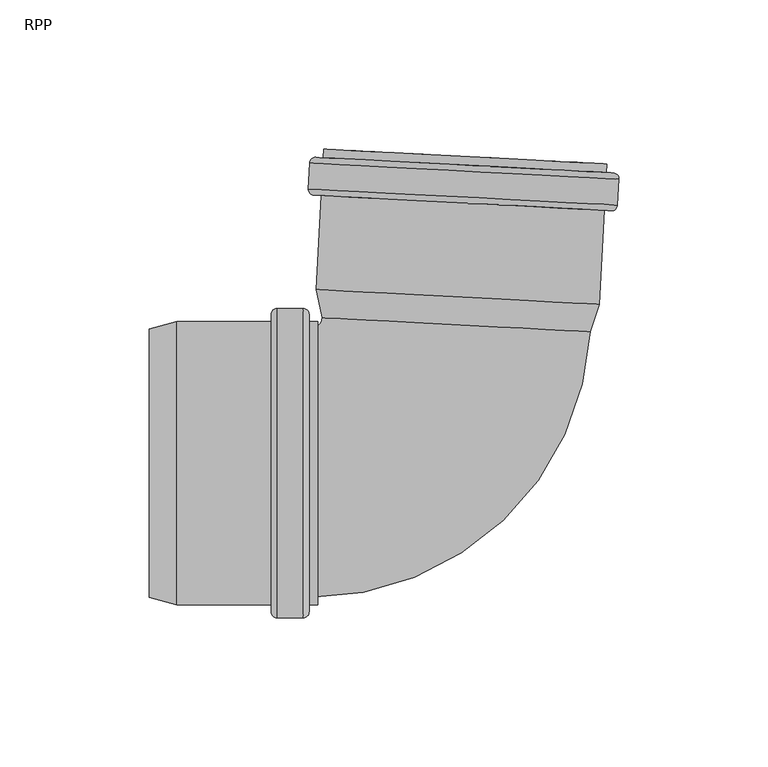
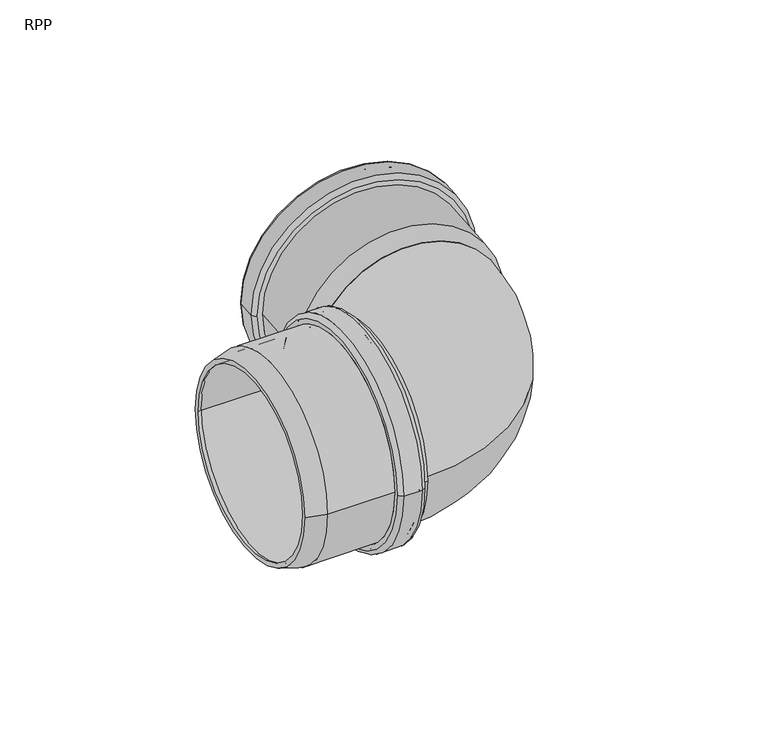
"""IFC4 building model written with IfcOpenShell, lengths in millimetres: pipe fitting geometry, RAUPIANO PLUS Bend : RPP."""

from ifc_helpers import new_model, si_unit, point, frame, origin, place, context, project, spatial, polyline, circle_curve, ellipse_curve, trimmed, source, transform, mapped, element, save
from ifc_brep_helpers import plane_surface, cylinder_surface, revolved_surface, advanced_brep


def rpp_260d73b4(model_context):
    return source(origin(), model_context, "Body", "AdvancedBrep", [
        advanced_brep(
        [(-57.3992638, -45.3, 0.0), (-57.3992638, 45.3, 0.0), (-90.8795013, 45.3, 0.0), (-90.8795013, -45.3, 0.0), (-56.8992638, -49.7, 0.0), (-56.8992638, 49.7, 0.0), (-57.3992638, 49.2, 0.0), (-57.3992638, -49.2, 0.0), (-49.5992638, -49.7, 0.0), (-49.5992638, 49.7, 0.0), (-49.0992638, -49.2, 0.0), (-49.0992638, 49.2, 0.0), (-43.9992638, -45.3, 0.0), (-43.9992638, 45.3, 0.0), (-49.0992638, 45.3, 0.0), (-49.0992638, -45.3, 0.0), (-46.8992638, -47.5, 0.0), (-46.8992638, 47.5, 0.0), (-43.9992638, 47.5, 0.0), (-43.9992638, -47.5, 0.0), (-48.8992638, -51.9, 0.0), (-48.8992638, 51.9, 0.0), (-46.8992638, 49.9, 0.0), (-46.8992638, -49.9, 0.0), (-57.5992638, -51.9, 0.0), (-57.5992638, 51.9, 0.0), (-59.5992638, -49.9, 0.0), (-59.5992638, 49.9, 0.0), (-91.1691368, -47.5, 0.0), (-91.1691368, 47.5, 0.0), (-59.5992638, 47.5, 0.0), (-59.5992638, -47.5, 0.0), (-100.4992638, -45.0, 0.0), (-100.4992638, 45.0, 0.0), (-100.4992638, 42.7223924, 0.0), (-100.4992638, -42.7223924, 0.0)],
        [
            (0, 1, circle_curve(frame((-57.3992638, 0.0, 0.0), z_axis=(1.0, 0.0, 0.0), x_axis=(0.0, 1.0, 0.0)), 45.3)),
            (1, 2),
            (2, 3, circle_curve(frame((-90.8795013, 0.0, 0.0), z_axis=(-1.0, 0.0, 0.0), x_axis=(0.0, 1.0, 0.0)), 45.3)),
            (3, 0),
            (4, 5, circle_curve(frame((-56.8992638, 0.0, 0.0), z_axis=(1.0, 0.0, 0.0), x_axis=(0.0, 1.0, 0.0)), 49.7)),
            (5, 6, circle_curve(frame((-56.8992638, 49.2, 0.0), z_axis=(0.0, 0.0, 1.0), x_axis=(0.0, -1.0, 0.0)), 0.5)),
            (6, 7, circle_curve(frame((-57.3992638, 0.0, 0.0), z_axis=(-1.0, 0.0, 0.0), x_axis=(0.0, 1.0, 0.0)), 49.2)),
            (7, 4, circle_curve(frame((-56.8992638, -49.2, 0.0), z_axis=(0.0, 0.0, 1.0), x_axis=(0.0, 1.0, 0.0)), 0.5)),
            (8, 9, circle_curve(frame((-49.5992638, 0.0, 0.0), z_axis=(1.0, 0.0, 0.0), x_axis=(0.0, 1.0, 0.0)), 49.7)),
            (9, 5),
            (4, 8),
            (10, 11, circle_curve(frame((-49.0992638, 0.0, 0.0), z_axis=(1.0, 0.0, 0.0), x_axis=(0.0, 1.0, 0.0)), 49.2)),
            (11, 9, circle_curve(frame((-49.5992638, 49.2, 0.0), z_axis=(0.0, 0.0, 1.0), x_axis=(0.0, -1.0, 0.0)), 0.5)),
            (8, 10, circle_curve(frame((-49.5992638, -49.2, 0.0), z_axis=(0.0, 0.0, 1.0), x_axis=(0.0, 1.0, 0.0)), 0.5)),
            (12, 13, circle_curve(frame((-43.9992638, 0.0, 0.0), z_axis=(1.0, 0.0, 0.0), x_axis=(0.0, 1.0, 0.0)), 45.3)),
            (13, 14),
            (14, 15, circle_curve(frame((-49.0992638, 0.0, 0.0), z_axis=(-1.0, 0.0, 0.0), x_axis=(0.0, 1.0, 0.0)), 45.3)),
            (15, 12),
            (16, 17, circle_curve(frame((-46.8992638, 0.0, 0.0), z_axis=(1.0, 0.0, 0.0), x_axis=(0.0, 1.0, 0.0)), 47.5)),
            (17, 18),
            (18, 19, circle_curve(frame((-43.9992638, 0.0, 0.0), z_axis=(-1.0, 0.0, 0.0), x_axis=(0.0, 1.0, 0.0)), 47.5)),
            (19, 16),
            (20, 21, circle_curve(frame((-48.8992638, 0.0, 0.0), z_axis=(1.0, 0.0, 0.0), x_axis=(0.0, 1.0, 0.0)), 51.9)),
            (21, 22, circle_curve(frame((-48.8992638, 49.9, 0.0), z_axis=(0.0, 0.0, -1.0), x_axis=(0.0, -1.0, 0.0)), 2.0)),
            (22, 23, circle_curve(frame((-46.8992638, 0.0, 0.0), z_axis=(-1.0, 0.0, 0.0), x_axis=(0.0, 1.0, 0.0)), 49.9)),
            (23, 20, circle_curve(frame((-48.8992638, -49.9, 0.0), z_axis=(0.0, 0.0, -1.0), x_axis=(0.0, 1.0, 0.0)), 2.0)),
            (24, 25, circle_curve(frame((-57.5992638, 0.0, 0.0), z_axis=(1.0, 0.0, 0.0), x_axis=(0.0, 1.0, 0.0)), 51.9)),
            (25, 21),
            (20, 24),
            (26, 27, circle_curve(frame((-59.5992638, 0.0, 0.0), z_axis=(1.0, 0.0, 0.0), x_axis=(0.0, 1.0, 0.0)), 49.9)),
            (27, 25, circle_curve(frame((-57.5992638, 49.9, 0.0), z_axis=(0.0, 0.0, -1.0), x_axis=(0.0, -1.0, 0.0)), 2.0)),
            (24, 26, circle_curve(frame((-57.5992638, -49.9, 0.0), z_axis=(0.0, 0.0, -1.0), x_axis=(0.0, 1.0, 0.0)), 2.0)),
            (28, 29, circle_curve(frame((-91.1691368, 0.0, 0.0), z_axis=(1.0, 0.0, 0.0), x_axis=(0.0, 1.0, 0.0)), 47.5)),
            (29, 30),
            (30, 31, circle_curve(frame((-59.5992638, 0.0, 0.0), z_axis=(-1.0, 0.0, 0.0), x_axis=(0.0, 1.0, 0.0)), 47.5)),
            (31, 28),
            (32, 33, circle_curve(frame((-100.4992638, 0.0, 0.0), z_axis=(1.0, 0.0, 0.0), x_axis=(0.0, 1.0, 0.0)), 45.0)),
            (33, 29),
            (28, 32),
            (2, 34),
            (34, 35, circle_curve(frame((-100.4992638, 0.0, 0.0), z_axis=(-1.0, 0.0, 0.0), x_axis=(0.0, 1.0, 0.0)), 42.7223924)),
            (35, 3),
            (1, 0, circle_curve(frame((-57.3992638, 0.0, 0.0), z_axis=(1.0, 0.0, 0.0), x_axis=(0.0, -1.0, 0.0)), 45.3)),
            (3, 2, circle_curve(frame((-90.8795013, 0.0, 0.0), z_axis=(-1.0, 0.0, 0.0), x_axis=(0.0, -1.0, 0.0)), 45.3)),
            (6, 7, circle_curve(frame((-57.3992638, 0.0, 0.0), z_axis=(1.0, 0.0, 0.0), x_axis=(0.0, -1.0, 0.0)), 49.2)),
            (5, 4, circle_curve(frame((-56.8992638, 0.0, 0.0), z_axis=(1.0, 0.0, 0.0), x_axis=(0.0, -1.0, 0.0)), 49.7)),
            (9, 8, circle_curve(frame((-49.5992638, 0.0, 0.0), z_axis=(1.0, 0.0, 0.0), x_axis=(0.0, -1.0, 0.0)), 49.7)),
            (11, 10, circle_curve(frame((-49.0992638, 0.0, 0.0), z_axis=(1.0, 0.0, 0.0), x_axis=(0.0, -1.0, 0.0)), 49.2)),
            (14, 15, circle_curve(frame((-49.0992638, 0.0, 0.0), z_axis=(1.0, 0.0, 0.0), x_axis=(0.0, -1.0, 0.0)), 45.3)),
            (13, 12, circle_curve(frame((-43.9992638, 0.0, 0.0), z_axis=(1.0, 0.0, 0.0), x_axis=(0.0, -1.0, 0.0)), 45.3)),
            (18, 19, circle_curve(frame((-43.9992638, 0.0, 0.0), z_axis=(1.0, 0.0, 0.0), x_axis=(0.0, -1.0, 0.0)), 47.5)),
            (17, 16, circle_curve(frame((-46.8992638, 0.0, 0.0), z_axis=(1.0, 0.0, 0.0), x_axis=(0.0, -1.0, 0.0)), 47.5)),
            (22, 23, circle_curve(frame((-46.8992638, 0.0, 0.0), z_axis=(1.0, 0.0, 0.0), x_axis=(0.0, -1.0, 0.0)), 49.9)),
            (21, 20, circle_curve(frame((-48.8992638, 0.0, 0.0), z_axis=(1.0, 0.0, 0.0), x_axis=(0.0, -1.0, 0.0)), 51.9)),
            (25, 24, circle_curve(frame((-57.5992638, 0.0, 0.0), z_axis=(1.0, 0.0, 0.0), x_axis=(0.0, -1.0, 0.0)), 51.9)),
            (27, 26, circle_curve(frame((-59.5992638, 0.0, 0.0), z_axis=(1.0, 0.0, 0.0), x_axis=(0.0, -1.0, 0.0)), 49.9)),
            (30, 31, circle_curve(frame((-59.5992638, 0.0, 0.0), z_axis=(1.0, 0.0, 0.0), x_axis=(0.0, -1.0, 0.0)), 47.5)),
            (29, 28, circle_curve(frame((-91.1691368, 0.0, 0.0), z_axis=(1.0, 0.0, 0.0), x_axis=(0.0, -1.0, 0.0)), 47.5)),
            (33, 32, circle_curve(frame((-100.4992638, 0.0, 0.0), z_axis=(1.0, 0.0, 0.0), x_axis=(0.0, -1.0, 0.0)), 45.0)),
            (34, 35, circle_curve(frame((-100.4992638, 0.0, 0.0), z_axis=(1.0, 0.0, 0.0), x_axis=(0.0, -1.0, 0.0)), 42.7223924)),
        ],
        [
            revolved_surface(polyline([(-90.8795013, 45.3, 0.0), (-57.3992638, 45.3, 0.0)]), (-100.4992638, 0.0, 0.0), (-1.0, 0.0, 0.0)),
            revolved_surface(trimmed(ellipse_curve(frame((-56.8992638, 49.2, 0.0), z_axis=(0.0, 0.0, -1.0), x_axis=(0.0, -1.0, 0.0)), 0.5, 0.5), [point((-57.3992638, 49.2, 0.0))], [point((-56.8992638, 49.7, 0.0))], True, "CARTESIAN"), (-100.4992638, 0.0, 0.0), (-1.0, 0.0, 0.0)),
            revolved_surface(polyline([(-56.8992638, 49.7, 0.0), (-49.5992638, 49.7, 0.0)]), (-100.4992638, 0.0, 0.0), (-1.0, 0.0, 0.0)),
            revolved_surface(trimmed(ellipse_curve(frame((-49.5992638, 49.2, 0.0), z_axis=(0.0, 0.0, -1.0), x_axis=(0.0, -1.0, 0.0)), 0.5, 0.5), [point((-49.5992638, 49.7, 0.0))], [point((-49.0992638, 49.2, 0.0))], True, "CARTESIAN"), (-100.4992638, 0.0, 0.0), (-1.0, 0.0, 0.0)),
            revolved_surface(polyline([(-49.0992638, 45.3, 0.0), (-43.9992638, 45.3, 0.0)]), (-100.4992638, 0.0, 0.0), (-1.0, 0.0, 0.0)),
            cylinder_surface(frame((-100.4992638, 0.0, 0.0), z_axis=(-1.0, 0.0, 0.0), x_axis=(0.0, 1.0, 0.0)), 47.5),
            revolved_surface(trimmed(ellipse_curve(frame((-48.8992638, 49.9, 0.0), z_axis=(0.0, 0.0, 1.0), x_axis=(0.0, -1.0, 0.0)), 2.0, 2.0), [point((-46.8992638, 49.9, 0.0))], [point((-48.8992638, 51.9, 0.0))], True, "CARTESIAN"), (-100.4992638, 0.0, 0.0), (-1.0, 0.0, 0.0)),
            cylinder_surface(frame((-100.4992638, 0.0, 0.0), z_axis=(-1.0, 0.0, 0.0), x_axis=(0.0, 1.0, 0.0)), 51.9),
            revolved_surface(trimmed(ellipse_curve(frame((-57.5992638, 49.9, 0.0), z_axis=(0.0, 0.0, 1.0), x_axis=(0.0, -1.0, 0.0)), 2.0, 2.0), [point((-57.5992638, 51.9, 0.0))], [point((-59.5992638, 49.9, 0.0))], True, "CARTESIAN"), (-100.4992638, 0.0, 0.0), (-1.0, 0.0, 0.0)),
            revolved_surface(polyline([(-91.1691368, 47.5, 0.0), (-100.4992638, 45.0, 0.0)]), (-100.4992638, 0.0, 0.0), (-1.0, 0.0, 0.0)),
            revolved_surface(polyline([(-100.4992638, 42.7223924, 0.0), (-90.8795013, 45.3, 0.0)]), (-100.4992638, 0.0, 0.0), (-1.0, 0.0, 0.0)),
            revolved_surface(polyline([(-90.8795013, -45.3, 0.0), (-57.3992638, -45.3, 0.0)]), (-100.4992638, 0.0, 0.0), (-1.0, 0.0, 0.0)),
            plane_surface(frame((-57.3992638, 0.0, 0.0), z_axis=(1.0, 0.0, 0.0), x_axis=(0.0, -1.0, 0.0))),
            revolved_surface(trimmed(ellipse_curve(frame((-56.8992638, -49.2, 0.0), z_axis=(0.0, 0.0, 1.0), x_axis=(0.0, 1.0, 0.0)), 0.5, 0.5), [point((-57.3992638, -49.2, 0.0))], [point((-56.8992638, -49.7, 0.0))], True, "CARTESIAN"), (-100.4992638, 0.0, 0.0), (-1.0, 0.0, 0.0)),
            revolved_surface(polyline([(-56.8992638, -49.7, 0.0), (-49.5992638, -49.7, 0.0)]), (-100.4992638, 0.0, 0.0), (-1.0, 0.0, 0.0)),
            revolved_surface(trimmed(ellipse_curve(frame((-49.5992638, -49.2, 0.0), z_axis=(0.0, 0.0, 1.0), x_axis=(0.0, 1.0, 0.0)), 0.5, 0.5), [point((-49.5992638, -49.7, 0.0))], [point((-49.0992638, -49.2, 0.0))], True, "CARTESIAN"), (-100.4992638, 0.0, 0.0), (-1.0, 0.0, 0.0)),
            plane_surface(frame((-49.0992638, 0.0, 0.0), z_axis=(-1.0, 0.0, 0.0), x_axis=(0.0, -1.0, 0.0))),
            revolved_surface(polyline([(-49.0992638, -45.3, 0.0), (-43.9992638, -45.3, 0.0)]), (-100.4992638, 0.0, 0.0), (-1.0, 0.0, 0.0)),
            plane_surface(frame((-43.9992638, 0.0, 0.0), z_axis=(1.0, 0.0, 0.0), x_axis=(0.0, -1.0, 0.0))),
            cylinder_surface(frame((-100.4992638, 0.0, 0.0), z_axis=(-1.0, 0.0, 0.0), x_axis=(0.0, -1.0, 0.0)), 47.5),
            plane_surface(frame((-46.8992638, 0.0, 0.0), z_axis=(1.0, 0.0, 0.0), x_axis=(0.0, -1.0, 0.0))),
            revolved_surface(trimmed(ellipse_curve(frame((-48.8992638, -49.9, 0.0), z_axis=(0.0, 0.0, -1.0), x_axis=(0.0, 1.0, 0.0)), 2.0, 2.0), [point((-46.8992638, -49.9, 0.0))], [point((-48.8992638, -51.9, 0.0))], True, "CARTESIAN"), (-100.4992638, 0.0, 0.0), (-1.0, 0.0, 0.0)),
            cylinder_surface(frame((-100.4992638, 0.0, 0.0), z_axis=(-1.0, 0.0, 0.0), x_axis=(0.0, -1.0, 0.0)), 51.9),
            revolved_surface(trimmed(ellipse_curve(frame((-57.5992638, -49.9, 0.0), z_axis=(0.0, 0.0, -1.0), x_axis=(0.0, 1.0, 0.0)), 2.0, 2.0), [point((-57.5992638, -51.9, 0.0))], [point((-59.5992638, -49.9, 0.0))], True, "CARTESIAN"), (-100.4992638, 0.0, 0.0), (-1.0, 0.0, 0.0)),
            plane_surface(frame((-59.5992638, 0.0, 0.0), z_axis=(-1.0, 0.0, 0.0), x_axis=(0.0, -1.0, 0.0))),
            revolved_surface(polyline([(-91.1691368, -47.5, 0.0), (-100.4992638, -45.0, 0.0)]), (-100.4992638, 0.0, 0.0), (-1.0, 0.0, 0.0)),
            plane_surface(frame((-100.4992638, 0.0, 0.0), z_axis=(-1.0, 0.0, 0.0), x_axis=(0.0, -1.0, 0.0))),
            revolved_surface(polyline([(-100.4992638, -42.7223924, 0.0), (-90.8795013, -45.3, 0.0)]), (-100.4992638, 0.0, 0.0), (-1.0, 0.0, 0.0)),
        ],
        [
            (0, [[1, 2, 3, 4]]),
            (1, [[5, 6, 7, 8]]),
            (2, [[9, 10, -5, 11]]),
            (3, [[12, 13, -9, 14]]),
            (4, [[15, 16, 17, 18]]),
            (5, [[19, 20, 21, 22]]),
            (6, [[23, 24, 25, 26]]),
            (7, [[27, 28, -23, 29]]),
            (8, [[30, 31, -27, 32]]),
            (5, [[33, 34, 35, 36]]),
            (9, [[37, 38, -33, 39]]),
            (10, [[-3, 40, 41, 42]]),
            (11, [[43, -4, 44, -2]]),
            (12, [[45, -7], [-43, -1]]),
            (13, [[46, -8, -45, -6]]),
            (14, [[47, -11, -46, -10]]),
            (15, [[48, -14, -47, -13]]),
            (16, [[-48, -12], [49, -17]]),
            (17, [[50, -18, -49, -16]]),
            (18, [[51, -21], [-50, -15]]),
            (19, [[52, -22, -51, -20]]),
            (20, [[53, -25], [-52, -19]]),
            (21, [[54, -26, -53, -24]]),
            (22, [[55, -29, -54, -28]]),
            (23, [[56, -32, -55, -31]]),
            (24, [[-56, -30], [57, -35]]),
            (19, [[58, -36, -57, -34]]),
            (25, [[59, -39, -58, -38]]),
            (26, [[-59, -37], [60, -41]]),
            (27, [[-44, -42, -60, -40]]),
        ],
    ),
        advanced_brep(
        [(45.0974263, 44.1996209, 0.0), (-40.2302594, 48.6714554, 0.0), (-42.300875, 58.4129359, 0.0), (48.1749608, 53.6712983, 0.0), (50.3567875, 53.2669206, 0.0), (-44.5130183, 58.2388365, 0.0), (-42.5047456, 48.7906562, 0.0), (47.3719125, 44.0804201, 0.0), (52.0090269, 84.7935282, 0.0), (-42.8607789, 89.765444, 0.0), (56.9629916, 95.248586, 0.0), (-46.6947541, 100.6810583, 0.0), (-47.1500769, 91.9929813, 0.0), (56.5076688, 86.5605091, 0.0), (52.8254679, 100.3721489, 0.0), (-42.0443379, 105.3440648, 0.0), (-42.1961122, 102.4480391, 0.0), (52.6736936, 97.4761233, 0.0), (50.3615695, 95.3942774, 0.0), (-40.1142663, 100.135915, 0.0), (-39.847353, 105.2289257, 0.0), (50.6284829, 100.487288, 0.0), (54.347319, 87.3746888, 0.0), (-44.9164568, 92.5768829, 0.0), (-44.5344043, 99.8668785, 0.0), (54.7293715, 94.6646844, 0.0), (-40.5486548, 91.8472899, 0.0), (49.9271811, 87.1056523, 0.0), (-45.2574897, 89.8910503, 0.0), (54.4057378, 84.6679219, 0.0), (55.0704045, 97.350517, 0.0), (-44.5928231, 102.5736454, 0.0), (-44.0089215, 100.3400253, 0.0), (54.2562247, 95.1901672, 0.0), (53.8218363, 86.901542, 0.0), (-44.44331, 92.0514001, 0.0)],
        [
            (0, 1, circle_curve(frame((2.4335834, 46.4355381, 0.0), z_axis=(-0.05233595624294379, -0.9986295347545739, 0.0), x_axis=(-0.9986295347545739, 0.05233595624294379, 0.0)), 42.7223924)),
            (1, 2),
            (2, 3, circle_curve(frame((2.9370429, 56.0421171, 0.0), z_axis=(0.05233595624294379, 0.9986295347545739, 0.0), x_axis=(-0.9986295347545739, 0.05233595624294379, 0.0)), 45.3)),
            (3, 0),
            (4, 5, circle_curve(frame((2.9218846, 55.7528785, 0.0), z_axis=(-0.05233595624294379, -0.9986295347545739, 0.0), x_axis=(-0.9986295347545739, 0.05233595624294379, 0.0)), 47.5)),
            (5, 6),
            (6, 7, circle_curve(frame((2.4335834, 46.4355381, 0.0), z_axis=(0.05233595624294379, 0.9986295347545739, 0.0), x_axis=(-0.9986295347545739, 0.05233595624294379, 0.0)), 45.0)),
            (7, 4),
            (8, 9, circle_curve(frame((4.574124, 87.2794861, 0.0), z_axis=(-0.05233595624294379, -0.9986295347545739, 0.0), x_axis=(-0.9986295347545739, 0.05233595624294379, 0.0)), 47.5)),
            (9, 5),
            (4, 8),
            (10, 11, circle_curve(frame((5.1341188, 97.9648221, 0.0), z_axis=(-0.05233595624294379, -0.9986295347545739, 0.0), x_axis=(-0.9986295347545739, 0.05233595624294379, 0.0)), 51.9)),
            (11, 12),
            (12, 13, circle_curve(frame((4.678796, 89.2767452, 0.0), z_axis=(0.05233595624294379, 0.9986295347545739, 0.0), x_axis=(-0.9986295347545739, 0.05233595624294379, 0.0)), 51.9)),
            (13, 10),
            (14, 15, circle_curve(frame((5.390565, 102.8581069, 0.0), z_axis=(-0.05233595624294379, -0.9986295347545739, 0.0), x_axis=(-0.9986295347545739, 0.05233595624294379, 0.0)), 47.5)),
            (15, 16),
            (16, 17, circle_curve(frame((5.2387907, 99.9620812, 0.0), z_axis=(0.05233595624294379, 0.9986295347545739, 0.0), x_axis=(-0.9986295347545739, 0.05233595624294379, 0.0)), 47.5)),
            (17, 14),
            (18, 19, circle_curve(frame((5.1236516, 97.7650962, 0.0), z_axis=(-0.05233595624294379, -0.9986295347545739, 0.0), x_axis=(-0.9986295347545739, 0.05233595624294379, 0.0)), 45.3)),
            (19, 20),
            (20, 21, circle_curve(frame((5.390565, 102.8581069, 0.0), z_axis=(0.05233595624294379, 0.9986295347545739, 0.0), x_axis=(-0.9986295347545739, 0.05233595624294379, 0.0)), 45.3)),
            (21, 18),
            (22, 23, circle_curve(frame((4.7154311, 89.9757859, 0.0), z_axis=(-0.05233595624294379, -0.9986295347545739, 0.0), x_axis=(-0.9986295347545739, 0.05233595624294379, 0.0)), 49.7)),
            (23, 24),
            (24, 25, circle_curve(frame((5.0974836, 97.2657815, 0.0), z_axis=(0.05233595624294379, 0.9986295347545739, 0.0), x_axis=(-0.9986295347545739, 0.05233595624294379, 0.0)), 49.7)),
            (25, 22),
            (2, 26),
            (26, 27, circle_curve(frame((4.6892631, 89.4764711, 0.0), z_axis=(0.05233595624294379, 0.9986295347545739, 0.0), x_axis=(-0.9986295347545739, 0.05233595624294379, 0.0)), 45.3)),
            (27, 3),
            (1, 0, circle_curve(frame((2.4335834, 46.4355381, 0.0), z_axis=(-0.05233595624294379, -0.9986295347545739, 0.0), x_axis=(0.9986295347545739, -0.05233595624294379, 0.0)), 42.7223924)),
            (3, 2, circle_curve(frame((2.9370429, 56.0421171, 0.0), z_axis=(0.05233595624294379, 0.9986295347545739, 0.0), x_axis=(0.9986295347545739, -0.05233595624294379, 0.0)), 45.3)),
            (6, 7, circle_curve(frame((2.4335834, 46.4355381, 0.0), z_axis=(-0.05233595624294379, -0.9986295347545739, 0.0), x_axis=(0.9986295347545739, -0.05233595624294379, 0.0)), 45.0)),
            (5, 4, circle_curve(frame((2.9218846, 55.7528785, 0.0), z_axis=(-0.05233595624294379, -0.9986295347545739, 0.0), x_axis=(0.9986295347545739, -0.05233595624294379, 0.0)), 47.5)),
            (9, 8, circle_curve(frame((4.574124, 87.2794861, 0.0), z_axis=(-0.05233595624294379, -0.9986295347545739, 0.0), x_axis=(0.9986295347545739, -0.05233595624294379, 0.0)), 47.5)),
            (28, 29, circle_curve(frame((4.574124, 87.2794861, 0.0), z_axis=(-0.05233595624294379, -0.9986295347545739, 0.0), x_axis=(0.9986295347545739, -0.05233595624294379, 0.0)), 49.9)),
            (29, 28, circle_curve(frame((4.574124, 87.2794861, 0.0), z_axis=(-0.05233595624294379, -0.9986295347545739, 0.0), x_axis=(-0.9986295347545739, 0.05233595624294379, 0.0)), 49.9)),
            (11, 10, circle_curve(frame((5.1341188, 97.9648221, 0.0), z_axis=(-0.05233595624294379, -0.9986295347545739, 0.0), x_axis=(0.9986295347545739, -0.05233595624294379, 0.0)), 51.9)),
            (13, 12, circle_curve(frame((4.678796, 89.2767452, 0.0), z_axis=(0.05233595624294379, 0.9986295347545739, 0.0), x_axis=(0.9986295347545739, -0.05233595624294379, 0.0)), 51.9)),
            (30, 31, circle_curve(frame((5.2387907, 99.9620812, 0.0), z_axis=(0.05233595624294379, 0.9986295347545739, 0.0), x_axis=(0.9986295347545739, -0.05233595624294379, 0.0)), 49.9)),
            (31, 30, circle_curve(frame((5.2387907, 99.9620812, 0.0), z_axis=(0.05233595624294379, 0.9986295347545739, 0.0), x_axis=(-0.9986295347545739, 0.05233595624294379, 0.0)), 49.9)),
            (16, 17, circle_curve(frame((5.2387907, 99.9620812, 0.0), z_axis=(-0.05233595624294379, -0.9986295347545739, 0.0), x_axis=(0.9986295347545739, -0.05233595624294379, 0.0)), 47.5)),
            (15, 14, circle_curve(frame((5.390565, 102.8581069, 0.0), z_axis=(-0.05233595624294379, -0.9986295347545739, 0.0), x_axis=(0.9986295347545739, -0.05233595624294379, 0.0)), 47.5)),
            (20, 21, circle_curve(frame((5.390565, 102.8581069, 0.0), z_axis=(-0.05233595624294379, -0.9986295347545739, 0.0), x_axis=(0.9986295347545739, -0.05233595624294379, 0.0)), 45.3)),
            (19, 18, circle_curve(frame((5.1236516, 97.7650962, 0.0), z_axis=(-0.05233595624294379, -0.9986295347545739, 0.0), x_axis=(0.9986295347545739, -0.05233595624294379, 0.0)), 45.3)),
            (32, 33, circle_curve(frame((5.1236516, 97.7650962, 0.0), z_axis=(-0.05233595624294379, -0.9986295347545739, 0.0), x_axis=(0.9986295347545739, -0.05233595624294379, 0.0)), 49.2)),
            (33, 32, circle_curve(frame((5.1236516, 97.7650962, 0.0), z_axis=(-0.05233595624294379, -0.9986295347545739, 0.0), x_axis=(-0.9986295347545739, 0.05233595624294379, 0.0)), 49.2)),
            (23, 22, circle_curve(frame((4.7154311, 89.9757859, 0.0), z_axis=(-0.05233595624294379, -0.9986295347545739, 0.0), x_axis=(0.9986295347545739, -0.05233595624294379, 0.0)), 49.7)),
            (25, 24, circle_curve(frame((5.0974836, 97.2657815, 0.0), z_axis=(0.05233595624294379, 0.9986295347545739, 0.0), x_axis=(0.9986295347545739, -0.05233595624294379, 0.0)), 49.7)),
            (34, 35, circle_curve(frame((4.6892631, 89.4764711, 0.0), z_axis=(0.05233595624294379, 0.9986295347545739, 0.0), x_axis=(0.9986295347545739, -0.05233595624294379, 0.0)), 49.2)),
            (35, 34, circle_curve(frame((4.6892631, 89.4764711, 0.0), z_axis=(0.05233595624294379, 0.9986295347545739, 0.0), x_axis=(-0.9986295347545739, 0.05233595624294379, 0.0)), 49.2)),
            (26, 27, circle_curve(frame((4.6892631, 89.4764711, 0.0), z_axis=(-0.05233595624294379, -0.9986295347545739, 0.0), x_axis=(0.9986295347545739, -0.05233595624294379, 0.0)), 45.3)),
            (12, 28, circle_curve(frame((-45.1528178, 91.8883094, 0.0), z_axis=(0.0, 0.0, 1.0), x_axis=(0.9986295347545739, -0.05233595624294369, 0.0)), 2.0)),
            (29, 13, circle_curve(frame((54.5104097, 86.665181, 0.0), z_axis=(0.0, 0.0, 1.0), x_axis=(-0.9986295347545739, 0.0523359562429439, 0.0)), 2.0)),
            (31, 11, circle_curve(frame((-44.697495, 100.5763864, 0.0), z_axis=(0.0, 0.0, 1.0), x_axis=(0.9986295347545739, -0.05233595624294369, 0.0)), 2.0)),
            (10, 30, circle_curve(frame((54.9657326, 95.3532579, 0.0), z_axis=(0.0, 0.0, 1.0), x_axis=(-0.9986295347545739, 0.0523359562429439, 0.0)), 2.0)),
            (24, 32, circle_curve(frame((-44.0350895, 99.8407105, 0.0), z_axis=(0.0, 0.0, -1.0), x_axis=(0.9986295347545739, -0.05233595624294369, 0.0)), 0.5)),
            (33, 25, circle_curve(frame((54.2300567, 94.6908524, 0.0), z_axis=(0.0, 0.0, -1.0), x_axis=(-0.9986295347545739, 0.0523359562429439, 0.0)), 0.5)),
            (35, 23, circle_curve(frame((-44.417142, 92.5507149, 0.0), z_axis=(0.0, 0.0, -1.0), x_axis=(0.9986295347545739, -0.05233595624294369, 0.0)), 0.5)),
            (22, 34, circle_curve(frame((53.8480042, 87.4008568, 0.0), z_axis=(0.0, 0.0, -1.0), x_axis=(-0.9986295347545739, 0.0523359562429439, 0.0)), 0.5)),
        ],
        [
            revolved_surface(polyline([(-42.300875, 58.4129359, 0.0), (-40.2302594, 48.6714554, 0.0)]), (2.4335834, 46.4355381, 0.0), (0.05233595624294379, 0.9986295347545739, 0.0)),
            revolved_surface(polyline([(-42.5047456, 48.7906562, 0.0), (-44.5130183, 58.2388365, 0.0)]), (2.4335834, 46.4355381, 0.0), (0.05233595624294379, 0.9986295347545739, 0.0)),
            cylinder_surface(frame((2.4335834, 46.4355381, 0.0), z_axis=(0.05233595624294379, 0.9986295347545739, 0.0), x_axis=(-0.9986295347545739, 0.05233595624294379, 0.0)), 47.5),
            cylinder_surface(frame((2.4335834, 46.4355381, 0.0), z_axis=(0.05233595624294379, 0.9986295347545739, 0.0), x_axis=(-0.9986295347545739, 0.05233595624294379, 0.0)), 51.9),
            revolved_surface(polyline([(-39.84735299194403, 105.22892572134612, 0.0), (-40.11426637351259, 100.13591500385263, 0.0)]), (2.4335834, 46.4355381, 0.0), (0.05233595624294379, 0.9986295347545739, 0.0)),
            revolved_surface(polyline([(-44.5344043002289, 99.86687852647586, 0.0), (-44.916456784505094, 92.57688285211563, 0.0)]), (2.4335834, 46.4355381, 0.0), (0.05233595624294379, 0.9986295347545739, 0.0)),
            revolved_surface(polyline([(-40.54865480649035, 91.84728993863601, 0.0), (-42.30087505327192, 58.41293590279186, 0.0)]), (2.4335834, 46.4355381, 0.0), (0.05233595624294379, 0.9986295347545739, 0.0)),
            revolved_surface(polyline([(48.1749608, 53.6712983, 0.0), (45.0974263, 44.1996209, 0.0)]), (2.4335834, 46.4355381, 0.0), (0.05233595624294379, 0.9986295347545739, 0.0)),
            plane_surface(frame((2.4335834, 46.4355381, 0.0), z_axis=(-0.05233595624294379, -0.9986295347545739, 0.0), x_axis=(0.9986295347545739, -0.05233595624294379, 0.0))),
            revolved_surface(polyline([(47.3719125, 44.0804201, 0.0), (50.3567875, 53.2669206, 0.0)]), (2.4335834, 46.4355381, 0.0), (0.05233595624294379, 0.9986295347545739, 0.0)),
            cylinder_surface(frame((2.4335834, 46.4355381, 0.0), z_axis=(0.05233595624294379, 0.9986295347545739, 0.0), x_axis=(0.9986295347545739, -0.05233595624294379, 0.0)), 47.5),
            plane_surface(frame((4.574124, 87.2794861, 0.0), z_axis=(-0.05233595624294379, -0.9986295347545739, 0.0), x_axis=(0.9986295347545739, -0.05233595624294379, 0.0))),
            cylinder_surface(frame((2.4335834, 46.4355381, 0.0), z_axis=(0.05233595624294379, 0.9986295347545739, 0.0), x_axis=(0.9986295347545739, -0.05233595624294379, 0.0)), 51.9),
            plane_surface(frame((5.2387907, 99.9620812, 0.0), z_axis=(0.05233595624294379, 0.9986295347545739, 0.0), x_axis=(0.9986295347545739, -0.05233595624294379, 0.0))),
            plane_surface(frame((5.390565, 102.8581069, 0.0), z_axis=(0.05233595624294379, 0.9986295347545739, 0.0), x_axis=(0.9986295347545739, -0.05233595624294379, 0.0))),
            revolved_surface(polyline([(50.62848285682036, 100.48728808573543, 0.0), (50.3615694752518, 95.39427736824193, 0.0)]), (2.4335834, 46.4355381, 0.0), (0.05233595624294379, 0.9986295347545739, 0.0)),
            plane_surface(frame((5.1236516, 97.7650962, 0.0), z_axis=(-0.05233595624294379, -0.9986295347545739, 0.0), x_axis=(0.9986295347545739, -0.05233595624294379, 0.0))),
            revolved_surface(polyline([(54.72937145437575, 94.66468447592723, 0.0), (54.34731897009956, 87.37468880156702, 0.0)]), (2.4335834, 46.4355381, 0.0), (0.05233595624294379, 0.9986295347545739, 0.0)),
            plane_surface(frame((4.6892631, 89.4764711, 0.0), z_axis=(0.05233595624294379, 0.9986295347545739, 0.0), x_axis=(0.9986295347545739, -0.05233595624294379, 0.0))),
            revolved_surface(polyline([(49.92718104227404, 87.1056523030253, 0.0), (48.17496079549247, 53.67129826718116, 0.0)]), (2.4335834, 46.4355381, 0.0), (0.05233595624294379, 0.9986295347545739, 0.0)),
            revolved_surface(trimmed(ellipse_curve(frame((-45.1528178, 91.8883094, 0.0), z_axis=(0.0, 0.0, -1.0), x_axis=(0.9986295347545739, -0.05233595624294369, 0.0)), 2.0, 2.0), [point((-45.2574897, 89.8910503, 0.0))], [point((-47.1500769, 91.9929813, 0.0))], True, "CARTESIAN"), (2.4335834, 46.4355381, 0.0), (0.05233595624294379, 0.9986295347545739, 0.0)),
            revolved_surface(trimmed(ellipse_curve(frame((-44.697495, 100.5763864, 0.0), z_axis=(0.0, 0.0, -1.0), x_axis=(0.9986295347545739, -0.05233595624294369, 0.0)), 2.0, 2.0), [point((-46.6947541, 100.6810583, 0.0))], [point((-44.5928231, 102.5736454, 0.0))], True, "CARTESIAN"), (2.4335834, 46.4355381, 0.0), (0.05233595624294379, 0.9986295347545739, 0.0)),
            revolved_surface(trimmed(ellipse_curve(frame((-44.0350895, 99.8407105, 0.0), z_axis=(0.0, 0.0, 1.0), x_axis=(0.9986295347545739, -0.05233595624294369, 0.0)), 0.5, 0.5), [point((-44.0089215, 100.3400253, 0.0))], [point((-44.5344043, 99.8668785, 0.0))], True, "CARTESIAN"), (2.4335834, 46.4355381, 0.0), (0.05233595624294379, 0.9986295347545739, 0.0)),
            revolved_surface(trimmed(ellipse_curve(frame((-44.417142, 92.5507149, 0.0), z_axis=(0.0, 0.0, 1.0), x_axis=(0.9986295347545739, -0.05233595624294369, 0.0)), 0.5, 0.5), [point((-44.9164568, 92.5768829, 0.0))], [point((-44.44331, 92.0514001, 0.0))], True, "CARTESIAN"), (2.4335834, 46.4355381, 0.0), (0.05233595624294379, 0.9986295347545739, 0.0)),
            revolved_surface(trimmed(ellipse_curve(frame((54.5104097, 86.665181, 0.0), z_axis=(0.0, 0.0, 1.0), x_axis=(-0.9986295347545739, 0.052335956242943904, 0.0)), 2.0, 2.0), [point((54.4057378, 84.6679219, 0.0))], [point((56.5076688, 86.5605091, 0.0))], True, "CARTESIAN"), (2.4335834, 46.4355381, 0.0), (0.05233595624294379, 0.9986295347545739, 0.0)),
            revolved_surface(trimmed(ellipse_curve(frame((54.9657326, 95.3532579, 0.0), z_axis=(0.0, 0.0, 1.0), x_axis=(-0.9986295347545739, 0.052335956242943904, 0.0)), 2.0, 2.0), [point((56.9629916, 95.248586, 0.0))], [point((55.0704045, 97.350517, 0.0))], True, "CARTESIAN"), (2.4335834, 46.4355381, 0.0), (0.05233595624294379, 0.9986295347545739, 0.0)),
            revolved_surface(trimmed(ellipse_curve(frame((54.2300567, 94.6908524, 0.0), z_axis=(0.0, 0.0, -1.0), x_axis=(-0.9986295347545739, 0.052335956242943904, 0.0)), 0.5, 0.5), [point((54.2562247, 95.1901672, 0.0))], [point((54.7293715, 94.6646844, 0.0))], True, "CARTESIAN"), (2.4335834, 46.4355381, 0.0), (0.05233595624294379, 0.9986295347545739, 0.0)),
            revolved_surface(trimmed(ellipse_curve(frame((53.8480042, 87.4008568, 0.0), z_axis=(0.0, 0.0, -1.0), x_axis=(-0.9986295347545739, 0.052335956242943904, 0.0)), 0.5, 0.5), [point((54.347319, 87.3746888, 0.0))], [point((53.8218363, 86.901542, 0.0))], True, "CARTESIAN"), (2.4335834, 46.4355381, 0.0), (0.05233595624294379, 0.9986295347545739, 0.0)),
        ],
        [
            (0, [[1, 2, 3, 4]]),
            (1, [[5, 6, 7, 8]]),
            (2, [[9, 10, -5, 11]]),
            (3, [[12, 13, 14, 15]]),
            (2, [[16, 17, 18, 19]]),
            (4, [[20, 21, 22, 23]]),
            (5, [[24, 25, 26, 27]]),
            (6, [[-3, 28, 29, 30]]),
            (7, [[31, -4, 32, -2]]),
            (8, [[33, -7], [-31, -1]]),
            (9, [[34, -8, -33, -6]]),
            (10, [[35, -11, -34, -10]]),
            (11, [[36, 37], [-35, -9]]),
            (12, [[38, -15, 39, -13]]),
            (13, [[40, 41], [42, -18]]),
            (10, [[43, -19, -42, -17]]),
            (14, [[-43, -16], [44, -22]]),
            (15, [[45, -23, -44, -21]]),
            (16, [[46, 47], [-45, -20]]),
            (17, [[48, -27, 49, -25]]),
            (18, [[50, 51], [52, -29]]),
            (19, [[-32, -30, -52, -28]]),
            (20, [[-14, 53, -37, 54]]),
            (21, [[-41, 55, -12, 56]]),
            (22, [[-26, 57, -47, 58]]),
            (23, [[-51, 59, -24, 60]]),
            (24, [[-39, -54, -36, -53]]),
            (25, [[-40, -56, -38, -55]]),
            (26, [[-49, -58, -46, -57]]),
            (27, [[-50, -60, -48, -59]]),
        ],
    ),
        advanced_brep(
        [(-46.4992638, 42.8, 0.0), (-46.4992638, -42.8, 0.0), (-100.4992638, -42.8, 0.0), (-100.4992638, 42.8, 0.0), (-95.2743926, 45.0, 0.0), (-95.2743926, -45.0, 0.0), (-46.4992638, -45.0, 0.0), (-46.4992638, 45.0, 0.0), (-100.4992638, 43.6, 0.0), (-100.4992638, -43.6, 0.0)],
        [
            (0, 1, circle_curve(frame((-46.4992638, 0.0, 0.0), z_axis=(1.0, 0.0, 0.0), x_axis=(0.0, -1.0, 0.0)), 42.8)),
            (1, 2),
            (2, 3, circle_curve(frame((-100.4992638, 0.0, 0.0), z_axis=(-1.0, 0.0, 0.0), x_axis=(0.0, -1.0, 0.0)), 42.8)),
            (3, 0),
            (4, 5, circle_curve(frame((-95.2743926, 0.0, 0.0), z_axis=(1.0, 0.0, 0.0), x_axis=(0.0, -1.0, 0.0)), 45.0)),
            (5, 6),
            (6, 7, circle_curve(frame((-46.4992638, 0.0, 0.0), z_axis=(-1.0, 0.0, 0.0), x_axis=(0.0, -1.0, 0.0)), 45.0)),
            (7, 4),
            (8, 9, circle_curve(frame((-100.4992638, 0.0, 0.0), z_axis=(1.0, 0.0, 0.0), x_axis=(0.0, -1.0, 0.0)), 43.6)),
            (9, 5),
            (4, 8),
            (1, 0, circle_curve(frame((-46.4992638, 0.0, 0.0), z_axis=(1.0, 0.0, 0.0), x_axis=(0.0, 1.0, 0.0)), 42.8)),
            (3, 2, circle_curve(frame((-100.4992638, 0.0, 0.0), z_axis=(-1.0, 0.0, 0.0), x_axis=(0.0, 1.0, 0.0)), 42.8)),
            (6, 7, circle_curve(frame((-46.4992638, 0.0, 0.0), z_axis=(1.0, 0.0, 0.0), x_axis=(0.0, 1.0, 0.0)), 45.0)),
            (5, 4, circle_curve(frame((-95.2743926, 0.0, 0.0), z_axis=(1.0, 0.0, 0.0), x_axis=(0.0, 1.0, 0.0)), 45.0)),
            (9, 8, circle_curve(frame((-100.4992638, 0.0, 0.0), z_axis=(1.0, 0.0, 0.0), x_axis=(0.0, 1.0, 0.0)), 43.6)),
        ],
        [
            revolved_surface(polyline([(-100.4992638, -42.8, 0.0), (-46.4992638, -42.8, 0.0)]), (-46.4992638, 0.0, 0.0), (-1.0, 0.0, 0.0)),
            cylinder_surface(frame((-46.4992638, 0.0, 0.0), z_axis=(-1.0, 0.0, 0.0), x_axis=(0.0, -1.0, 0.0)), 45.0),
            revolved_surface(polyline([(-95.2743926, -45.0, 0.0), (-100.4992638, -43.6, 0.0)]), (-46.4992638, 0.0, 0.0), (-1.0, 0.0, 0.0)),
            revolved_surface(polyline([(-100.4992638, 42.8, 0.0), (-46.4992638, 42.8, 0.0)]), (-46.4992638, 0.0, 0.0), (-1.0, 0.0, 0.0)),
            plane_surface(frame((-46.4992638, 0.0, 0.0), z_axis=(1.0, 0.0, 0.0), x_axis=(0.0, 1.0, 0.0))),
            cylinder_surface(frame((-46.4992638, 0.0, 0.0), z_axis=(-1.0, 0.0, 0.0), x_axis=(0.0, 1.0, 0.0)), 45.0),
            revolved_surface(polyline([(-95.2743926, 45.0, 0.0), (-100.4992638, 43.6, 0.0)]), (-46.4992638, 0.0, 0.0), (-1.0, 0.0, 0.0)),
            plane_surface(frame((-100.4992638, 0.0, 0.0), z_axis=(-1.0, 0.0, 0.0), x_axis=(0.0, 1.0, 0.0))),
        ],
        [
            (0, [[1, 2, 3, 4]]),
            (1, [[5, 6, 7, 8]]),
            (2, [[9, 10, -5, 11]]),
            (3, [[12, -4, 13, -2]]),
            (4, [[14, -7], [-12, -1]]),
            (5, [[15, -8, -14, -6]]),
            (6, [[16, -11, -15, -10]]),
            (7, [[-16, -9], [-13, -3]]),
        ],
    ),
        advanced_brep(
        [(-46.4992638, -45.0, 0.0), (-46.4992638, 45.0, 0.0), (-46.4992638, -42.8, 0.0), (-46.4992638, 42.8, 0.0), (47.3719125, 44.0804201, 0.0), (-42.5047456, 48.7906562, 0.0), (45.1749275, 44.1955592, 0.0), (-40.3077607, 48.6755171, 0.0)],
        [
            (0, 1, circle_curve(frame((-46.4992638, 0.0, 0.0), z_axis=(-1.0, 0.0, 0.0), x_axis=(0.0, 1.0, 0.0)), 45.0)),
            (1, 0, circle_curve(frame((-46.4992638, 0.0, 0.0), z_axis=(-1.0, 0.0, 0.0), x_axis=(0.0, 1.0, 0.0)), 45.0)),
            (2, 3, circle_curve(frame((-46.4992638, 0.0, 0.0), z_axis=(1.0, 0.0, 0.0), x_axis=(0.0, 1.0, 0.0)), 42.8)),
            (3, 2, circle_curve(frame((-46.4992638, 0.0, 0.0), z_axis=(1.0, 0.0, 0.0), x_axis=(0.0, 1.0, 0.0)), 42.8)),
            (4, 5, circle_curve(frame((2.4335834, 46.4355381, 0.0), z_axis=(0.05233595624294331, 0.9986295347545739, 0.0), x_axis=(-0.9986295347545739, 0.05233595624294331, 0.0)), 45.0)),
            (5, 4, circle_curve(frame((2.4335834, 46.4355381, 0.0), z_axis=(0.05233595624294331, 0.9986295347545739, 0.0), x_axis=(-0.9986295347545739, 0.05233595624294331, 0.0)), 45.0)),
            (6, 7, circle_curve(frame((2.4335834, 46.4355381, 0.0), z_axis=(-0.05233595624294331, -0.9986295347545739, 0.0), x_axis=(-0.9986295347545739, 0.05233595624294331, 0.0)), 42.8)),
            (7, 6, circle_curve(frame((2.4335834, 46.4355381, 0.0), z_axis=(-0.05233595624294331, -0.9986295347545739, 0.0), x_axis=(-0.9986295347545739, 0.05233595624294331, 0.0)), 42.8)),
            (7, 3, circle_curve(frame((-46.4992638, 49.0, 0.0), z_axis=(0.0, 0.0, -1.0), x_axis=(0.0, -1.0, 0.0)), 6.2)),
            (2, 6, circle_curve(frame((-46.4992638, 49.0, 0.0), z_axis=(0.0, 0.0, 1.0), x_axis=(0.0, -1.0, 0.0)), 91.8)),
            (5, 1, circle_curve(frame((-46.4992638, 49.0, 0.0), z_axis=(0.0, 0.0, -1.0), x_axis=(0.0, -1.0, 0.0)), 4.0)),
            (0, 4, circle_curve(frame((-46.4992638, 49.0, 0.0), z_axis=(0.0, 0.0, 1.0), x_axis=(0.0, -1.0, 0.0)), 94.0)),
        ],
        [
            plane_surface(frame((-46.4992638, 0.0, 0.0), z_axis=(-1.0, 0.0, 0.0), x_axis=(0.0, 0.0, 1.0))),
            plane_surface(frame((2.4335834, 46.4355381, 0.0), z_axis=(0.05233595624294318, 0.9986295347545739, 0.0), x_axis=(0.0, 0.0, 1.0))),
            revolved_surface(trimmed(ellipse_curve(frame((-46.4992638, 0.0, 0.0), z_axis=(1.0, 0.0, 0.0), x_axis=(0.0, 1.0, 0.0)), 42.8, 42.8), [point((-46.4992638, -42.8, 0.0))], [point((-46.4992638, 42.8, 0.0))], True, "CARTESIAN"), (-46.4992638, 49.0, 0.0), (0.0, 0.0, 1.0)),
            revolved_surface(trimmed(ellipse_curve(frame((-46.4992638, 0.0, 0.0), z_axis=(1.0, 0.0, 0.0), x_axis=(0.0, 1.0, 0.0)), 42.8, 42.8), [point((-46.4992638, 42.8, 0.0))], [point((-46.4992638, -42.8, 0.0))], True, "CARTESIAN"), (-46.4992638, 49.0, 0.0), (0.0, 0.0, 1.0)),
            revolved_surface(trimmed(ellipse_curve(frame((-46.4992638, 0.0, 0.0), z_axis=(-1.0, 0.0, 0.0), x_axis=(0.0, 1.0, 0.0)), 45.0, 45.0), [point((-46.4992638, -45.0, 0.0))], [point((-46.4992638, 45.0, 0.0))], True, "CARTESIAN"), (-46.4992638, 49.0, 0.0), (0.0, 0.0, 1.0)),
            revolved_surface(trimmed(ellipse_curve(frame((-46.4992638, 0.0, 0.0), z_axis=(-1.0, 0.0, 0.0), x_axis=(0.0, 1.0, 0.0)), 45.0, 45.0), [point((-46.4992638, 45.0, 0.0))], [point((-46.4992638, -45.0, 0.0))], True, "CARTESIAN"), (-46.4992638, 49.0, 0.0), (0.0, 0.0, 1.0)),
        ],
        [
            (0, [[1, 2], [3, 4]]),
            (1, [[5, 6], [7, 8]]),
            (2, [[9, -3, 10, -8]]),
            (3, [[-10, -4, -9, -7]]),
            (4, [[11, -1, 12, -6]]),
            (5, [[-12, -2, -11, -5]]),
        ],
    ),
    ])


if __name__ == "__main__":
    model = new_model("IFC4")
    model_context = context("Model", 3, world=origin())
    ifc_project = project(units=[si_unit("LENGTHUNIT", "METRE", prefix="MILLI")], contexts=[model_context])
    site = spatial("IfcSite", under=ifc_project)
    building = spatial("IfcBuilding", under=site)
    placement = place(None, origin())
    rpp_shape = rpp_260d73b4(model_context)
    element("IfcPipeFitting", 1, ObjectType="RAUPIANO PLUS Bend : RPP", at=placement, inside=building, context=model_context, shape_type="MappedRepresentation", body=[
        mapped(rpp_shape, transform((0.0, 0.0, 0.0), x_axis=(1.0, 0.0, 0.0), y_axis=(0.0, 1.0, 0.0), z_axis=(0.0, 0.0, 1.0))),
    ])
    save(model, "model.ifc")
